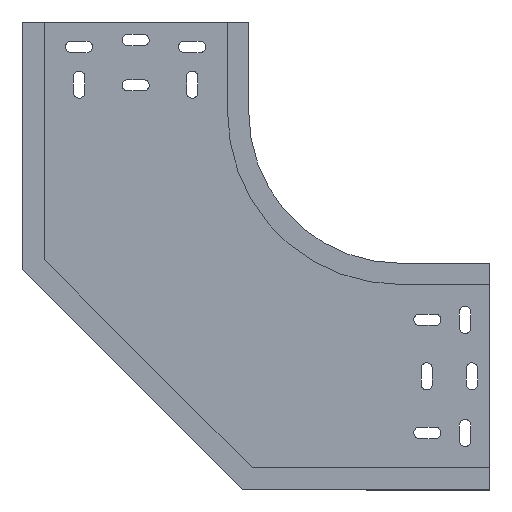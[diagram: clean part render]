
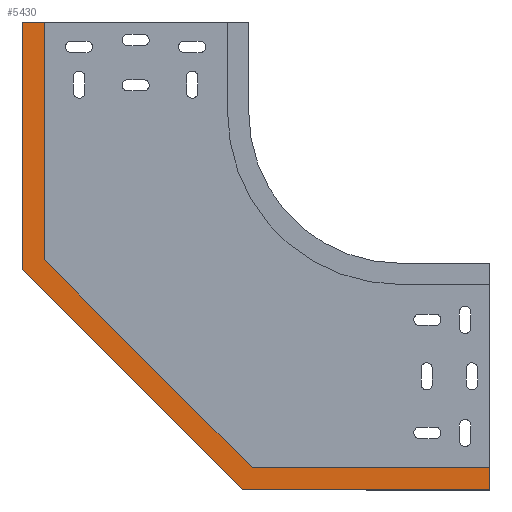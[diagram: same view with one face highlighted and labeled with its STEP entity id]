
A CAD part, front view. The second image highlights one B-rep face of the part: STEP entity #5430.
In plain terms, the highlighted planar face has unit normal (0, -1, 0).
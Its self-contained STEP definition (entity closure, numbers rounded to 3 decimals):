
#5 = EDGE_LOOP ( 'NONE', ( #1211, #1634, #4562, #5201, #3424, #352, #4701, #2289 ) ) ;
#76 = VECTOR ( 'NONE', #4598, 1000. ) ;
#99 = DIRECTION ( 'NONE',  ( 1., 0., 0. ) ) ;
#155 = VERTEX_POINT ( 'NONE', #4837 ) ;
#184 = LINE ( 'NONE', #2807, #76 ) ;
#210 = CARTESIAN_POINT ( 'NONE',  ( -310.371, -1., 146.371 ) ) ;
#352 = ORIENTED_EDGE ( 'NONE', *, *, #4695, .F. ) ;
#355 = EDGE_CURVE ( 'NONE', #3351, #155, #2321, .T. ) ;
#477 = VERTEX_POINT ( 'NONE', #2933 ) ;
#538 = VECTOR ( 'NONE', #3499, 1000. ) ;
#572 = PLANE ( 'NONE',  #689 ) ;
#633 = DIRECTION ( 'NONE',  ( 0., 0., -1. ) ) ;
#689 = AXIS2_PLACEMENT_3D ( 'NONE', #4495, #2770, #633 ) ;
#748 = LINE ( 'NONE', #5541, #5687 ) ;
#811 = DIRECTION ( 'NONE',  ( -0.707, 0., 0.707 ) ) ;
#830 = EDGE_CURVE ( 'NONE', #477, #4884, #4208, .T. ) ;
#939 = EDGE_CURVE ( 'NONE', #1967, #4884, #184, .T. ) ;
#941 = FACE_OUTER_BOUND ( 'NONE', #5, .T. ) ;
#1029 = EDGE_CURVE ( 'NONE', #3351, #4926, #748, .T. ) ;
#1088 = DIRECTION ( 'NONE',  ( 1., 0., 0. ) ) ;
#1211 = ORIENTED_EDGE ( 'NONE', *, *, #355, .F. ) ;
#1245 = EDGE_CURVE ( 'NONE', #3771, #1303, #2745, .T. ) ;
#1262 = VECTOR ( 'NONE', #5051, 1000. ) ;
#1303 = VERTEX_POINT ( 'NONE', #1966 ) ;
#1312 = LINE ( 'NONE', #3005, #538 ) ;
#1354 = VECTOR ( 'NONE', #1088, 1000. ) ;
#1375 = CARTESIAN_POINT ( 'NONE',  ( -310.371, -1., 310.371 ) ) ;
#1533 = EDGE_CURVE ( 'NONE', #4926, #1967, #1312, .T. ) ;
#1634 = ORIENTED_EDGE ( 'NONE', *, *, #1029, .T. ) ;
#1664 = VECTOR ( 'NONE', #3602, 1000. ) ;
#1838 = CARTESIAN_POINT ( 'NONE',  ( -157.787, -1., 15. ) ) ;
#1909 = CARTESIAN_POINT ( 'NONE',  ( -295.371, -1., 310.371 ) ) ;
#1966 = CARTESIAN_POINT ( 'NONE',  ( 0., -1., 0. ) ) ;
#1967 = VERTEX_POINT ( 'NONE', #1909 ) ;
#2289 = ORIENTED_EDGE ( 'NONE', *, *, #4891, .F. ) ;
#2321 = LINE ( 'NONE', #4089, #4291 ) ;
#2329 = LINE ( 'NONE', #4159, #1664 ) ;
#2582 = LINE ( 'NONE', #3102, #5187 ) ;
#2745 = LINE ( 'NONE', #3678, #1354 ) ;
#2770 = DIRECTION ( 'NONE',  ( 0., -1., 0. ) ) ;
#2807 = CARTESIAN_POINT ( 'NONE',  ( -242.817, -1., 310.371 ) ) ;
#2933 = CARTESIAN_POINT ( 'NONE',  ( -310.371, -1., 146.371 ) ) ;
#3005 = CARTESIAN_POINT ( 'NONE',  ( -295.371, -1., 152.584 ) ) ;
#3102 = CARTESIAN_POINT ( 'NONE',  ( 0., -1., 15. ) ) ;
#3351 = VERTEX_POINT ( 'NONE', #1838 ) ;
#3424 = ORIENTED_EDGE ( 'NONE', *, *, #830, .F. ) ;
#3499 = DIRECTION ( 'NONE',  ( 0., 0., 1. ) ) ;
#3602 = DIRECTION ( 'NONE',  ( -0.707, 0., 0.707 ) ) ;
#3678 = CARTESIAN_POINT ( 'NONE',  ( -222.74, -1., 0. ) ) ;
#3771 = VERTEX_POINT ( 'NONE', #4119 ) ;
#4089 = CARTESIAN_POINT ( 'NONE',  ( -222.74, -1., 15. ) ) ;
#4119 = CARTESIAN_POINT ( 'NONE',  ( -164., -1., 0. ) ) ;
#4159 = CARTESIAN_POINT ( 'NONE',  ( -164., -1., 0. ) ) ;
#4208 = LINE ( 'NONE', #210, #1262 ) ;
#4291 = VECTOR ( 'NONE', #99, 1000. ) ;
#4348 = CARTESIAN_POINT ( 'NONE',  ( -295.371, -1., 152.584 ) ) ;
#4495 = CARTESIAN_POINT ( 'NONE',  ( -222.74, -1., 15. ) ) ;
#4562 = ORIENTED_EDGE ( 'NONE', *, *, #1533, .T. ) ;
#4598 = DIRECTION ( 'NONE',  ( -1., 0., 0. ) ) ;
#4695 = EDGE_CURVE ( 'NONE', #3771, #477, #2329, .T. ) ;
#4701 = ORIENTED_EDGE ( 'NONE', *, *, #1245, .T. ) ;
#4837 = CARTESIAN_POINT ( 'NONE',  ( 0., -1., 15. ) ) ;
#4884 = VERTEX_POINT ( 'NONE', #1375 ) ;
#4891 = EDGE_CURVE ( 'NONE', #155, #1303, #2582, .T. ) ;
#4926 = VERTEX_POINT ( 'NONE', #4348 ) ;
#5051 = DIRECTION ( 'NONE',  ( 0., 0., 1. ) ) ;
#5187 = VECTOR ( 'NONE', #5282, 1000. ) ;
#5201 = ORIENTED_EDGE ( 'NONE', *, *, #939, .T. ) ;
#5282 = DIRECTION ( 'NONE',  ( 0., 0., -1. ) ) ;
#5430 = ADVANCED_FACE ( 'NONE', ( #941 ), #572, .T. ) ;
#5541 = CARTESIAN_POINT ( 'NONE',  ( -157.787, -1., 15. ) ) ;
#5687 = VECTOR ( 'NONE', #811, 1000. ) ;
